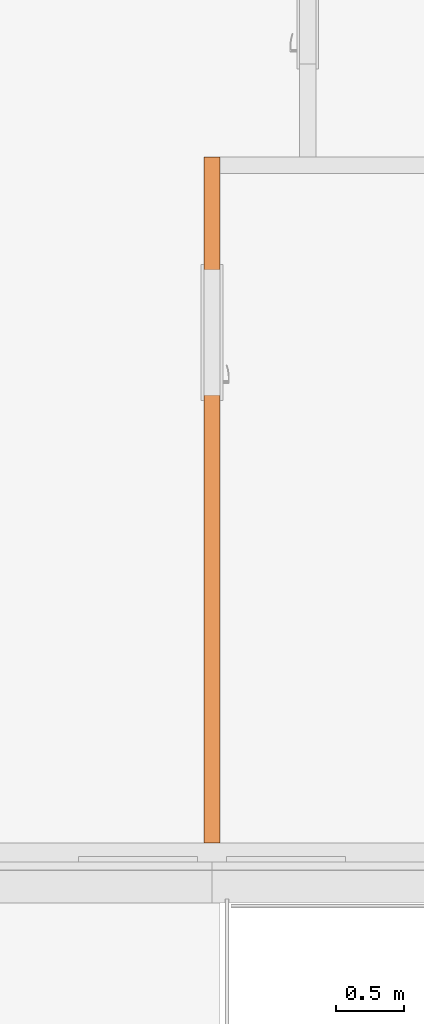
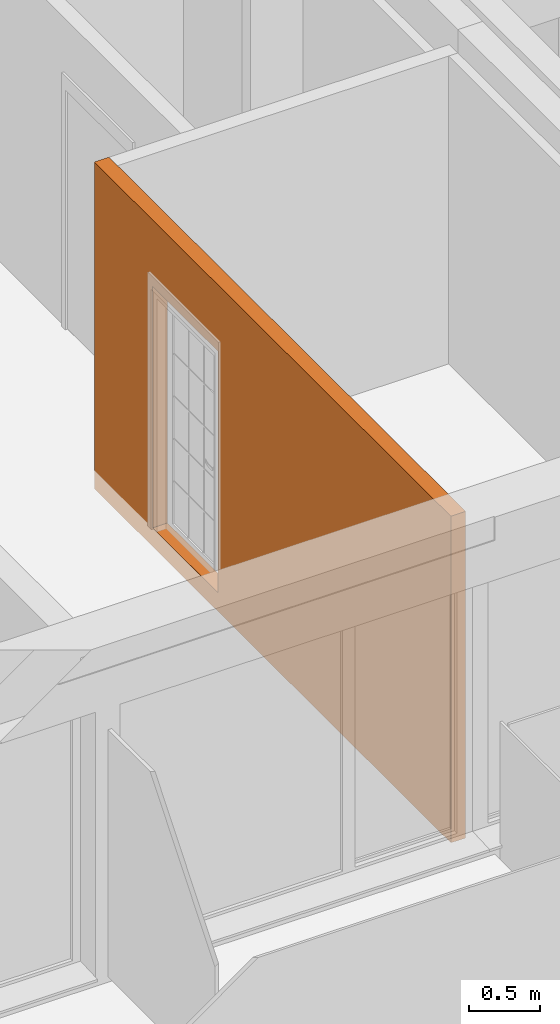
# One storey, part 41 of 66: 1 proxy, 1 opening.
"""IFC2X3 building model written with IfcOpenShell, lengths in millimetres."""

from ifc_helpers import new_model, entity, si_unit, converted_unit, derived_unit, money_unit, direction, frame, origin_with_axes, origin_2d_with_axis, place, context, subcontext, project, spatial, rectangle, extrude, faceted_brep, material, type_object, element, save


model = new_model("IFC2X3")

# Units and contexts
model_context = context("Model", 3, precision=0.01, world=origin_with_axes(), true_north=direction((0.34421633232, 0.938890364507)))
body_context = subcontext(model_context, "Body", "Model", "MODEL_VIEW")
ifc_project = project(units=[si_unit("LENGTHUNIT", "METRE", prefix="MILLI"), si_unit("AREAUNIT", "SQUARE_METRE"), si_unit("VOLUMEUNIT", "CUBIC_METRE"), converted_unit("PLANEANGLEUNIT", "DEGREE", entity("IfcPlaneAngleMeasure", 0.0174532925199), si_unit("PLANEANGLEUNIT", "RADIAN"), dimensions=[0, 0, 0, 0, 0, 0, 0]), si_unit("SOLIDANGLEUNIT", "STERADIAN"), money_unit("USD"), converted_unit("TIMEUNIT", "Year", entity("IfcTimeMeasure", 31556926.0), si_unit("TIMEUNIT", "SECOND"), dimensions=[0, 0, 1, 0, 0, 0, 0]), si_unit("MASSUNIT", "GRAM", prefix="KILO"), si_unit("THERMODYNAMICTEMPERATUREUNIT", "DEGREE_CELSIUS"), si_unit("LUMINOUSINTENSITYUNIT", "LUMEN"), si_unit("ENERGYUNIT", "JOULE", prefix="MEGA"), derived_unit("THERMALCONDUCTANCEUNIT", [(si_unit("POWERUNIT", "WATT"), 1), (si_unit("LENGTHUNIT", "METRE"), -1), (si_unit("THERMODYNAMICTEMPERATUREUNIT", "KELVIN"), -1)]), derived_unit("SPECIFICHEATCAPACITYUNIT", [(si_unit("ENERGYUNIT", "JOULE"), 1), (si_unit("MASSUNIT", "GRAM", prefix="KILO"), -1), (si_unit("THERMODYNAMICTEMPERATUREUNIT", "KELVIN"), -1)]), derived_unit("MASSDENSITYUNIT", [(si_unit("MASSUNIT", "GRAM", prefix="KILO"), 1), (si_unit("VOLUMEUNIT", "CUBIC_METRE"), -1)])], contexts=[model_context])

# Site, building, storey
site_placement = place(None, origin_with_axes())
site = spatial("IfcSite", under=ifc_project, at=site_placement, Name="USTRONIE MORSKIE", CompositionType="ELEMENT")
building_placement = place(site_placement, origin_with_axes())
building = spatial("IfcBuilding", under=site, at=building_placement, Name="Budynek", CompositionType="ELEMENT")
storey_placement = place(building_placement, frame((0.0, 0.0, 10000.0), z_axis=(0.0, 0.0, 1.0), x_axis=(1.0, 0.0, 0.0)))
storey = spatial("IfcBuildingStorey", under=building, at=storey_placement, Name="PIĘTRO 3", CompositionType="ELEMENT", Elevation=10000.0)

# Proxy, opening
ifc_material = material(Name="Bloczki silikatowe")
building_element_proxy_type = type_object("IfcBuildingElementProxyType", Name="Bloczki silikatowe 120", PredefinedType="NOTDEFINED")
proxy_placement = place(storey_placement, frame((405397.901569, 731951.199132, -160.0), z_axis=(0.0, 0.0, 1.0), x_axis=(0.0, -1.0, 0.0)))
proxy = element("IfcBuildingElementProxy", 1, at=proxy_placement, inside=storey, type_object=building_element_proxy_type, material=ifc_material, Name="SW-04", context=body_context, shape_type="Brep", body=[
    faceted_brep([(4950.00009633, -60.0, 2800.0), (4950.00009633, 60.0, 2800.0), (-59.9999999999, 60.0, 2800.0), (-59.9999999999, -60.0, 2800.0), (4950.00009633, -60.0, 0.0), (4950.00009633, 60.0, 0.0), (-59.9999999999, 60.0, 0.0), (-59.9999999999, -60.0, 0.0)], [[[0, 1, 2, 3]], [[1, 0, 4, 5]], [[1, 5, 6, 2]], [[7, 3, 2, 6]], [[4, 0, 3, 7]], [[5, 4, 7, 6]]]),
])
opening_placement = place(proxy_placement, frame((1220.00038806, 0.0, 160.0), z_axis=(0.0, 0.0, 1.0), x_axis=(1.0, 0.0, 0.0)))
element("IfcOpeningElement", 2, at=opening_placement, cuts=proxy, Name="Dw.3", context=body_context, shape_type="SweptSolid", body=[
    extrude(rectangle(XDim=920.0, YDim=2070.0, at=origin_2d_with_axis()), frame((0.0, 120.0, 1035.0), z_axis=(0.0, 1.0, 0.0), x_axis=(-1.0, 0.0, 0.0)), (0.0, 0.0, -1.0), 360.0),
    extrude(rectangle(XDim=994.0, YDim=2177.0, at=origin_2d_with_axis()), frame((0.0, 60.0, 1088.5), z_axis=(0.0, 1.0, 0.0), x_axis=(-1.0, 0.0, 0.0)), (0.0, 0.0, 1.0), 120.0),
    extrude(rectangle(XDim=994.0, YDim=2177.0, at=origin_2d_with_axis()), frame((0.0, -60.0, 1088.5), z_axis=(0.0, -1.0, 0.0), x_axis=(-1.0, 0.0, 0.0)), (0.0, 0.0, 1.0), 120.0),
])

save(model, "model.ifc")
